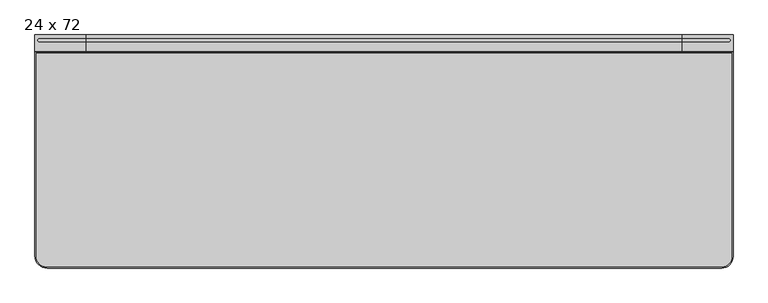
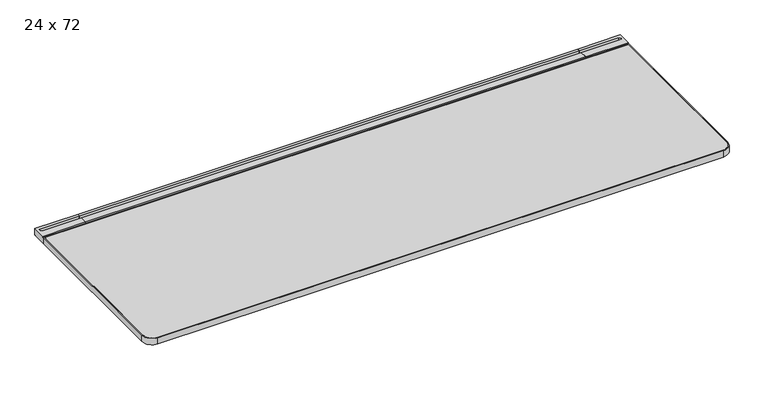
"""IFC4 building model written with IfcOpenShell, lengths in millimetres: furniture geometry, Steelcase - C Scape - Desking - Straight : 24 x 72."""

from ifc_helpers import new_model, si_unit, point, frame, frame_2d, origin, place, context, project, spatial, polyline, circle_curve, trimmed, segment, composite_curve, outline, extrude, faceted_brep, source, transform, mapped, element, save
from ifc_brep_helpers import plane_surface, cylinder_surface, revolved_surface, advanced_brep


def furniture_24_x_72_0e6367d8(model_context):
    return source(origin(), model_context, "Body", "SolidModel", [
        advanced_brep(
        [(1694.2562243, -45.3135132, 703.3768), (1694.2562243, -45.3135132, 722.4268341), (1694.2562243, -42.7750923, 722.4268341), (1694.2562243, -42.7750923, 725.932), (1694.2562243, -19.3290527, 725.932), (1694.2562243, -19.3290527, 713.486), (1694.2562243, -8.5111084, 713.486), (1694.2562243, -8.5111084, 725.932), (1694.2562243, 0.0, 725.932), (1694.2562243, 0.0, 705.1038636), (1694.2562243, -3.2278472, 705.1038636), (1694.2562243, -4.0331902, 703.3768), (1827.2760119, -45.3135132, 703.3768), (1827.2760119, -4.0331902, 703.3768), (1827.2760119, -3.2278472, 705.1038636), (1827.2760119, 0.0, 705.1038636), (1827.2760119, 0.0, 725.932), (1827.2760119, -42.7750923, 725.932), (1827.2760119, -42.7750923, 722.4268341), (1827.2760119, -45.3135132, 722.4268341), (1815.5139392, -8.5111084, 725.932), (1815.5139392, -19.3290527, 725.932), (1815.5139392, -19.3290527, 713.486), (1815.5139392, -8.5111084, 713.486)],
        [
            (0, 1),
            (1, 2),
            (2, 3),
            (3, 4),
            (4, 5),
            (5, 6),
            (6, 7),
            (7, 8),
            (8, 9),
            (9, 10),
            (10, 11),
            (11, 0),
            (12, 13),
            (13, 14),
            (14, 15),
            (15, 16),
            (16, 17),
            (17, 18),
            (18, 19),
            (19, 12),
            (11, 13),
            (12, 0),
            (10, 14),
            (9, 15),
            (8, 16),
            (7, 20),
            (20, 21, circle_curve(frame((1815.5139392, -13.9200806, 725.932), z_axis=(0.0, 0.0, -1.0), x_axis=(-1.0, 0.0, 0.0)), 5.4089722)),
            (21, 4),
            (3, 17),
            (2, 18),
            (1, 19),
            (5, 22),
            (22, 23, circle_curve(frame((1815.5139392, -13.9200806, 713.486), z_axis=(0.0, 0.0, 1.0), x_axis=(-1.0, 0.0, 0.0)), 5.4089722)),
            (23, 6),
            (23, 20),
            (22, 21),
        ],
        [
            plane_surface(frame((1694.2562243, -45.3135132, 703.3768), z_axis=(-1.0, 0.0, 0.0), x_axis=(0.0, 1.0, 0.0))),
            plane_surface(frame((1827.2760119, -45.3135132, 703.3768), z_axis=(1.0, 0.0, 0.0), x_axis=(0.0, -1.0, 0.0))),
            plane_surface(frame((1694.2562243, -45.3135132, 703.3768), z_axis=(0.0, 0.0, -1.0), x_axis=(1.0, 0.0, 0.0))),
            plane_surface(frame((1694.2562243, -4.0331902, 703.3768), z_axis=(0.0, 0.9063077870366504, -0.4226182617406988), x_axis=(1.0, 0.0, 0.0))),
            plane_surface(frame((1694.2562243, -3.2278472, 705.1038636), z_axis=(0.0, 0.0, -1.0), x_axis=(1.0, 0.0, 0.0))),
            plane_surface(frame((1694.2562243, 0.0, 705.1038636), z_axis=(0.0, 1.0, 0.0), x_axis=(1.0, 0.0, 0.0))),
            plane_surface(frame((1694.2562243, 0.0, 725.932), z_axis=(0.0, 0.0, 1.0), x_axis=(1.0, 0.0, 0.0))),
            plane_surface(frame((1694.2562243, -42.7750923, 725.932), z_axis=(0.0, -1.0, 0.0), x_axis=(1.0, 0.0, 0.0))),
            plane_surface(frame((1694.2562243, -42.7750923, 722.4268341), z_axis=(0.0, 0.0, 1.0), x_axis=(1.0, 0.0, 0.0))),
            plane_surface(frame((1694.2562243, -45.3135132, 722.4268341), z_axis=(0.0, -1.0, 0.0), x_axis=(1.0, 0.0, 0.0))),
            plane_surface(frame((1815.5139392, -8.5111084, 713.486), z_axis=(0.0, 0.0, 1.0), x_axis=(-1.0, 0.0, 0.0))),
            plane_surface(frame((1694.2562243, -8.5111084, 731.2180541), z_axis=(0.0, -1.0, 0.0), x_axis=(0.0, 0.0, -1.0))),
            revolved_surface(polyline([(1810.104967, -13.9200806, 725.932), (1810.104967, -13.9200806, 713.486)]), (1815.5139392, -13.9200806, 713.486), (0.0, 0.0, 1.0)),
            plane_surface(frame((1815.5139392, -19.3290527, 731.2180541), z_axis=(0.0, 1.0, 0.0), x_axis=(0.0, 0.0, -1.0))),
        ],
        [
            (0, [[1, 2, 3, 4, 5, 6, 7, 8, 9, 10, 11, 12]]),
            (1, [[13, 14, 15, 16, 17, 18, 19, 20]]),
            (2, [[21, -13, 22, -12]]),
            (3, [[23, -14, -21, -11]]),
            (4, [[24, -15, -23, -10]]),
            (5, [[25, -16, -24, -9]]),
            (6, [[-25, -8, 26, 27, 28, -4, 29, -17]]),
            (7, [[30, -18, -29, -3]]),
            (8, [[31, -19, -30, -2]]),
            (9, [[-22, -20, -31, -1]]),
            (10, [[-6, 32, 33, 34]]),
            (11, [[35, -26, -7, -34]]),
            (12, [[36, -27, -35, -33]]),
            (13, [[-5, -28, -36, -32]]),
        ],
    ),
        faceted_brep([(1808.2252487, -565.0752923, 700.7093833), (1808.2252487, -565.0752923, 703.3768), (1694.2562243, -565.0752923, 703.3768), (1694.2562243, -565.0752923, 679.3263935), (1709.8903818, -565.0752923, 679.3263935), (1712.510924, -565.0752923, 693.4200291), (1793.9501391, -565.0752923, 693.4200291), (1808.2252487, -4.0331902, 700.7093833), (1793.9501391, -4.0331902, 693.4200291), (1712.510924, -4.0331902, 693.4200291), (1700.6046772, -4.0331902, 629.3866), (1694.2562243, -4.0331902, 629.3866), (1694.2562243, -4.0331902, 703.3768), (1808.2252487, -4.0331902, 703.3768), (1707.7251068, -376.5599397, 667.6812472), (1700.6046772, -364.1172546, 629.3866), (1694.2562243, -364.1172546, 629.3866), (1694.2562243, -376.5599397, 667.6812472)], [[[0, 1, 2, 3, 4, 5, 6]], [[7, 8, 9, 10, 11, 12, 13]], [[6, 8, 7, 0]], [[5, 9, 8, 6]], [[9, 5, 4, 14, 15, 10]], [[10, 15, 16, 11]], [[11, 16, 17, 3, 2, 12]], [[1, 13, 12, 2]], [[0, 7, 13, 1]], [[14, 4, 3, 17]], [[17, 16, 15, 14]]]),
        extrude(outline(composite_curve([segment(polyline([(-293.5216187, 657.3775839), (-559.0022133, 680.1371551)]), True, "CONTINUOUS"), segment(trimmed(circle_curve(frame_2d((-558.7581271, 682.9843154)), 2.8576039), [point((-559.0022133, 680.1371551))], [point((-561.5383043, 682.3236226))], False, "CARTESIAN"), True, "CONTINUOUS"), segment(polyline([(-561.5383043, 682.3236226), (-566.0887542, 701.4717905), (-557.8334441, 701.4717905), (-557.8334441, 703.3768), (-442.6683806, 703.3768), (-442.6683806, 696.3917953), (-318.2108611, 696.3917953), (-318.2108611, 703.3768), (-293.5216187, 703.3768), (-293.5216187, 657.3775839)]), True, "CONTINUOUS")], self_intersect=False)), frame((877.824, 0.0, 0.0), z_axis=(1.0, 0.0, 0.0), x_axis=(0.0, 1.0, 0.0)), (0.0, 0.0, 1.0), 73.152),
        advanced_brep(
        [(134.6072876, -45.3135132, 703.3768), (134.6072876, -4.0331902, 703.3768), (134.6072876, -3.2278472, 705.1038636), (134.6072876, 0.0, 705.1038636), (134.6072876, 0.0, 725.932), (134.6072876, -8.5111084, 725.932), (134.6072876, -8.5111084, 713.486), (134.6072876, -19.3290527, 713.486), (134.6072876, -19.3290527, 725.932), (134.6072876, -42.7750923, 725.932), (134.6072876, -42.7750923, 722.4268341), (134.6072876, -45.3135132, 722.4268341), (1.5875, -45.3135132, 703.3768), (1.5875, -45.3135132, 722.4268341), (1.5875, -42.7750923, 722.4268341), (1.5875, -42.7750923, 725.932), (1.5875, 0.0, 725.932), (1.5875, 0.0, 705.1038636), (1.5875, -3.2278472, 705.1038636), (1.5875, -4.0331902, 703.3768), (13.3495728, -19.3290527, 725.932), (13.3495728, -8.5111084, 725.932), (13.3495728, -8.5111084, 713.486), (13.3495728, -19.3290527, 713.486)],
        [
            (0, 1),
            (1, 2),
            (2, 3),
            (3, 4),
            (4, 5),
            (5, 6),
            (6, 7),
            (7, 8),
            (8, 9),
            (9, 10),
            (10, 11),
            (11, 0),
            (12, 13),
            (13, 14),
            (14, 15),
            (15, 16),
            (16, 17),
            (17, 18),
            (18, 19),
            (19, 12),
            (0, 12),
            (19, 1),
            (18, 2),
            (17, 3),
            (16, 4),
            (15, 9),
            (8, 20),
            (20, 21, circle_curve(frame((13.3495728, -13.9200806, 725.932), z_axis=(0.0, 0.0, -1.0), x_axis=(1.0, 0.0, 0.0)), 5.4089722)),
            (21, 5),
            (14, 10),
            (13, 11),
            (6, 22),
            (22, 23, circle_curve(frame((13.3495728, -13.9200806, 713.486), z_axis=(0.0, 0.0, 1.0), x_axis=(1.0, 0.0, 0.0)), 5.4089722)),
            (23, 7),
            (21, 22),
            (20, 23),
        ],
        [
            plane_surface(frame((134.6072876, -45.3135132, 703.3768), z_axis=(1.0, 0.0, 0.0), x_axis=(0.0, 1.0, 0.0))),
            plane_surface(frame((1.5875, -45.3135132, 703.3768), z_axis=(-1.0, 0.0, 0.0), x_axis=(0.0, -1.0, 0.0))),
            plane_surface(frame((134.6072876, -45.3135132, 703.3768), z_axis=(0.0, 0.0, -1.0), x_axis=(-1.0, 0.0, 0.0))),
            plane_surface(frame((134.6072876, -4.0331902, 703.3768), z_axis=(0.0, 0.9063077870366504, -0.4226182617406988), x_axis=(-1.0, 0.0, 0.0))),
            plane_surface(frame((134.6072876, -3.2278472, 705.1038636), z_axis=(0.0, 0.0, -1.0), x_axis=(-1.0, 0.0, 0.0))),
            plane_surface(frame((134.6072876, 0.0, 705.1038636), z_axis=(0.0, 1.0, 0.0), x_axis=(-1.0, 0.0, 0.0))),
            plane_surface(frame((134.6072876, 0.0, 725.932), z_axis=(0.0, 0.0, 1.0), x_axis=(-1.0, 0.0, 0.0))),
            plane_surface(frame((134.6072876, -42.7750923, 725.932), z_axis=(0.0, -1.0, 0.0), x_axis=(-1.0, 0.0, 0.0))),
            plane_surface(frame((134.6072876, -42.7750923, 722.4268341), z_axis=(0.0, 0.0, 1.0), x_axis=(-1.0, 0.0, 0.0))),
            plane_surface(frame((134.6072876, -45.3135132, 722.4268341), z_axis=(0.0, -1.0, 0.0), x_axis=(-1.0, 0.0, 0.0))),
            plane_surface(frame((13.3495728, -8.5111084, 713.486), z_axis=(0.0, 0.0, 1.0), x_axis=(1.0, 0.0, 0.0))),
            plane_surface(frame((134.6072876, -8.5111084, 731.2180541), z_axis=(0.0, -1.0, 0.0), x_axis=(0.0, 0.0, -1.0))),
            revolved_surface(polyline([(18.758545, -13.9200806, 725.932), (18.758545, -13.9200806, 713.486)]), (13.3495728, -13.9200806, 713.486), (0.0, 0.0, 1.0)),
            plane_surface(frame((13.3495728, -19.3290527, 731.2180541), z_axis=(0.0, 1.0, 0.0), x_axis=(0.0, 0.0, -1.0))),
        ],
        [
            (0, [[1, 2, 3, 4, 5, 6, 7, 8, 9, 10, 11, 12]]),
            (1, [[13, 14, 15, 16, 17, 18, 19, 20]]),
            (2, [[-1, 21, -20, 22]]),
            (3, [[-2, -22, -19, 23]]),
            (4, [[-3, -23, -18, 24]]),
            (5, [[-4, -24, -17, 25]]),
            (6, [[-16, 26, -9, 27, 28, 29, -5, -25]]),
            (7, [[-10, -26, -15, 30]]),
            (8, [[-11, -30, -14, 31]]),
            (9, [[-12, -31, -13, -21]]),
            (10, [[32, 33, 34, -7]]),
            (11, [[-32, -6, -29, 35]]),
            (12, [[-33, -35, -28, 36]]),
            (13, [[-34, -36, -27, -8]]),
        ],
    ),
        faceted_brep([(20.6382632, -565.0752923, 700.7093833), (34.9133728, -565.0752923, 693.4200291), (116.3525879, -565.0752923, 693.4200291), (118.9731301, -565.0752923, 679.3263935), (134.6072876, -565.0752923, 679.3263935), (134.6072876, -565.0752923, 703.3768), (20.6382632, -565.0752923, 703.3768), (20.6382632, -4.0331902, 700.7093833), (20.6382632, -4.0331902, 703.3768), (134.6072876, -4.0331902, 703.3768), (134.6072876, -4.0331902, 629.3866), (128.2588347, -4.0331902, 629.3866), (116.3525879, -4.0331902, 693.4200291), (34.9133728, -4.0331902, 693.4200291), (128.2588347, -364.1172546, 629.3866), (121.1384051, -376.5599397, 667.6812472), (134.6072876, -364.1172546, 629.3866), (134.6072876, -376.5599397, 667.6812472)], [[[0, 1, 2, 3, 4, 5, 6]], [[7, 8, 9, 10, 11, 12, 13]], [[1, 0, 7, 13]], [[2, 1, 13, 12]], [[12, 11, 14, 15, 3, 2]], [[11, 10, 16, 14]], [[10, 9, 5, 4, 17, 16]], [[6, 5, 9, 8]], [[0, 6, 8, 7]], [[15, 17, 4, 3]], [[17, 15, 14, 16]]]),
        extrude(outline(polyline([(-8.5111084, 725.932), (0.0, 725.932), (0.0, 705.1038636), (-3.2278472, 705.1038636), (-4.0331902, 703.3768), (-45.3135132, 703.3768), (-45.3135132, 722.4268341), (-42.7750923, 722.4268341), (-42.7750923, 725.932), (-19.3290527, 725.932), (-19.3290527, 713.486), (-8.5111084, 713.486), (-8.5111084, 725.932)])), frame((134.6072876, 0.0, 0.0), z_axis=(1.0, 0.0, 0.0), x_axis=(0.0, 1.0, 0.0)), (0.0, 0.0, 1.0), 1559.6489367),
        extrude(outline(polyline([(134.6072876, -293.5216187), (134.6072876, -4.0331902), (1694.2562243, -4.0331902), (1694.2562243, -293.5216187), (134.6072876, -293.5216187)])), frame((0.0, 0.0, 629.3866), z_axis=(0.0, 0.0, 1.0), x_axis=(1.0, 0.0, 0.0)), (0.0, 0.0, 1.0), 73.9902),
        advanced_brep(
        [(4.6355, -48.3660689, 723.9), (4.6355, -577.85, 723.9), (33.3375, -606.5490234, 723.9), (1797.4737019, -606.5490234, 723.9), (1824.2273608, -579.7953645, 723.9), (1824.2273608, -48.3660689, 723.9), (4.6355, -48.3660689, 703.3768), (1824.2273608, -48.3660689, 703.3768), (1824.2273608, -579.7953645, 703.3768), (1797.4737019, -606.5490234, 703.3768), (33.3375, -606.5490234, 703.3768), (4.6384766, -577.85, 703.3768)],
        [
            (0, 1),
            (1, 2, circle_curve(frame((33.3375, -577.85, 723.9), z_axis=(0.0, 0.0, 1.0), x_axis=(1.0, 0.0, 0.0)), 28.6990234)),
            (2, 3),
            (3, 4, circle_curve(frame((1797.4737019, -579.7953645, 723.9), z_axis=(0.0, 0.0, 1.0), x_axis=(1.0, 0.0, 0.0)), 26.7536589)),
            (4, 5),
            (5, 0),
            (6, 7),
            (7, 8),
            (8, 9, circle_curve(frame((1797.4737019, -579.7953645, 703.3768), z_axis=(0.0, 0.0, -1.0), x_axis=(1.0, 0.0, 0.0)), 26.7536589)),
            (9, 10),
            (10, 11, circle_curve(frame((33.3375, -577.85, 703.3768), z_axis=(0.0, 0.0, -1.0), x_axis=(1.0, 0.0, 0.0)), 28.6990234)),
            (11, 6),
            (0, 6),
            (11, 1),
            (10, 2),
            (9, 3),
            (8, 4),
            (7, 5),
        ],
        [
            plane_surface(frame((4.6355, -48.3660689, 723.9), z_axis=(0.0, 0.0, 1.0), x_axis=(0.0, -1.0, 0.0))),
            plane_surface(frame((4.6355, -48.3660689, 703.3768), z_axis=(0.0, 0.0, -1.0), x_axis=(0.0, 1.0, 0.0))),
            plane_surface(frame((4.6355, -48.3660689, 723.9), z_axis=(-1.0, 0.0, 0.0), x_axis=(0.0, 0.0, -1.0))),
            cylinder_surface(frame((33.3375, -577.85, 703.3768), z_axis=(0.0, 0.0, 1.0), x_axis=(1.0, 0.0, 0.0)), 28.6990234),
            plane_surface(frame((33.3375, -606.5490234, 723.9), z_axis=(0.0, -1.0, 0.0), x_axis=(0.0, 0.0, -1.0))),
            cylinder_surface(frame((1797.4737019, -579.7953645, 703.3768), z_axis=(0.0, 0.0, 1.0), x_axis=(1.0, 0.0, 0.0)), 26.7536589),
            plane_surface(frame((1824.2273608, -579.7953645, 723.9), z_axis=(1.0, 0.0, 0.0), x_axis=(0.0, 0.0, -1.0))),
            plane_surface(frame((1824.2273608, -48.3660689, 723.9), z_axis=(0.0, 1.0, 0.0), x_axis=(0.0, 0.0, -1.0))),
        ],
        [
            (0, [[1, 2, 3, 4, 5, 6]]),
            (1, [[7, 8, 9, 10, 11, 12]]),
            (2, [[-1, 13, -12, 14]]),
            (3, [[-2, -14, -11, 15]]),
            (4, [[-3, -15, -10, 16]]),
            (5, [[-4, -16, -9, 17]]),
            (6, [[-5, -17, -8, 18]]),
            (7, [[-6, -18, -7, -13]]),
        ],
    ),
        extrude(outline(composite_curve([segment(trimmed(circle_curve(frame_2d((33.3375, -577.85)), 31.75), [point((33.3375, -609.6))], [point((1.5875, -577.85))], False, "CARTESIAN"), True, "CONTINUOUS"), segment(polyline([(1.5875, -577.85), (1.5875, -45.3150923), (1827.276, -45.3150923), (1827.276, -579.7250374)]), True, "CONTINUOUS"), segment(trimmed(circle_curve(frame_2d((1797.4010374, -579.7250374)), 29.8749626), [point((1827.276, -579.7250374))], [point((1797.4010374, -609.6))], False, "CARTESIAN"), True, "CONTINUOUS"), segment(polyline([(1797.4010374, -609.6), (33.3375, -609.6)]), True, "CONTINUOUS")], self_intersect=False), holes=[composite_curve([segment(polyline([(1824.2250234, -48.3660689), (4.6384766, -48.3660689), (4.6384766, -577.85)]), True, "CONTINUOUS"), segment(trimmed(circle_curve(frame_2d((33.3375, -577.85)), 28.6990234), [point((4.6384766, -577.85))], [point((33.3375, -606.5490234))], True, "CARTESIAN"), True, "CONTINUOUS"), segment(polyline([(33.3375, -606.5490234), (1797.4010374, -606.5490234)]), True, "CONTINUOUS"), segment(trimmed(circle_curve(frame_2d((1797.4010374, -579.7250374)), 26.8239861), [point((1797.4010374, -606.5490234))], [point((1824.2250234, -579.7250374))], True, "CARTESIAN"), True, "CONTINUOUS"), segment(polyline([(1824.2250234, -579.7250374), (1824.2250234, -48.3660689)]), True, "CONTINUOUS")], self_intersect=False)]), frame((0.0, 0.0, 703.3768), z_axis=(0.0, 0.0, 1.0), x_axis=(1.0, 0.0, 0.0)), (0.0, 0.0, 1.0), 20.5232),
    ])


if __name__ == "__main__":
    model = new_model("IFC4")
    model_context = context("Model", 3, world=origin())
    ifc_project = project(units=[si_unit("LENGTHUNIT", "METRE", prefix="MILLI")], contexts=[model_context])
    site = spatial("IfcSite", under=ifc_project)
    building = spatial("IfcBuilding", under=site)
    placement = place(None, origin())
    furniture_24_x_72_shape = furniture_24_x_72_0e6367d8(model_context)
    element("IfcFurniture", 1, ObjectType="Steelcase - C Scape - Desking - Straight : 24 x 72", at=placement, inside=building, context=model_context, shape_type="MappedRepresentation", body=[
        mapped(furniture_24_x_72_shape, transform((0.0, 0.0, 0.0), x_axis=(1.0, 0.0, 0.0), y_axis=(0.0, 1.0, 0.0), z_axis=(0.0, 0.0, 1.0))),
    ])
    save(model, "model.ifc")
